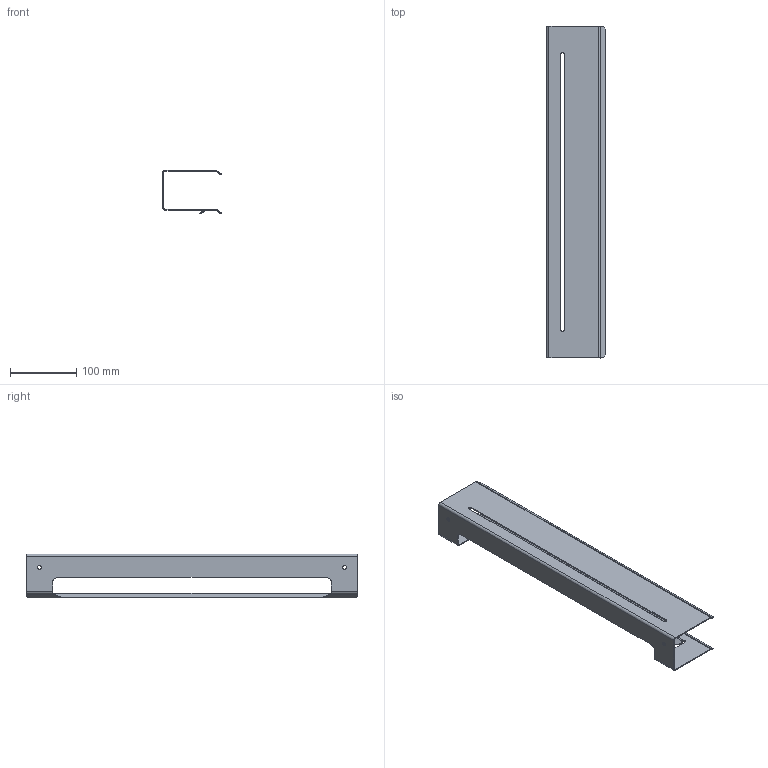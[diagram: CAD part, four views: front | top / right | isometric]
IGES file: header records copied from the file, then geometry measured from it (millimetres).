
Start section: IGES file generated by C3D Converter 1.5 translator by C3D Labs., translator version IGESOUT-5.1.
Global section: file name: D:\×åðòåæè èçäåëèé Âàííà 2023\Ïîëêè Simple Íîâûå\3D\×åðòåæè 22.07.2023\3D\S²MPLE_2LAYER_500.igs; preprocessor: 1.0; author: a.kalenyk83@gmail.com; organization: unknown; date: -17770622:111308; units: millimetre
Bounding box: 88.5 x 500 x 65.77 mm (x, y, z)
Volume: 123636.8 mm3; surface area: 169903 mm2
Topology: 1 solids, 1 shells, 76 faces, 180 edges, 104 vertices
Faces by surface type: bspline 48, revolution 28
